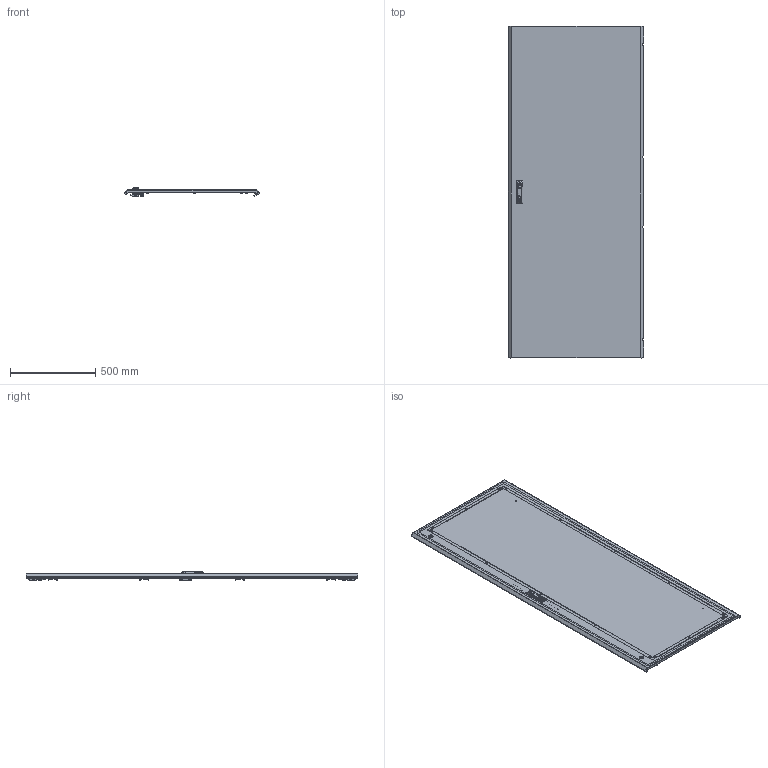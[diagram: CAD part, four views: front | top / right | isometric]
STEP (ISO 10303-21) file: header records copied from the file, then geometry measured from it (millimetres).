
FILE_DESCRIPTION (( 'STEP AP203' ), '1' );
FILE_NAME ('MA1.200.080620.30.00 AleSta-D20M800 Äâåðü ñïëîøíàÿ äëÿ øêàôîâ ALESTA ÂõØ 2000õ800.STEP', '2025-02-19T14:14:40', ( '' ), ( '' ), 'SwSTEP 2.0', 'SolidWorks 2021', '' );
FILE_SCHEMA (( 'CONFIG_CONTROL_DESIGN' ));
Length unit declared in the file: millimetre
Products named in the file (23): Óïëîòíèòåëü ïàíåëè íèæíåé_ ‚=2000; òÿãà_lg001-2.STEP_‚=2000; MA1.200.060620.31.06 赶鎀鍧_100 洵; Âèíò ñàìîíàðåçàþùèé ñ ïîòàéíîé ãîëîâêîé Ì5x16 DIN 7500 M TORX, êëàññ ïðî÷íîñòè 8.8, îöèíêîâàííàÿ ñòàëü_Œ5å16; Áîëò øåñòèãðàííûé Ì5õ12 DIN 933, êëàññ ïðî÷íîñòè 8.8, îöèíêîâàííàÿ ñòàëü; MA1.200.060620.31.04 需沐朦_惃％; äåðæàòåëü_êðóãëîé_òÿãèRG002-RG1010-2-i-RG1010-3-.stp; MA1.200.060620.31.05 Óãëîâîé óïîð äâåðíîé òÿãè; MA1.200.060620.31.01 Ïîëîòíî äâåðè ñïëîøíîé 2000õ600_2000å800; êðåïëåíèå_êðóãëîé_òÿãè_RG1020-1.stp; MA1.200.060620.31.00 Äâåðü ñïëîøíàÿ äëÿ øêàôîâ ALESTA ÂõØ 2000õ600_2000å800; Ãàéêà ñàìîêîíòðÿùàÿñÿ ñ íåéëîíîâîé âñòàâêîé Ì6 DIN 985, êëàññ ïðî÷íîñòè 8, îöèíêîâàííàÿ ñòàëü_Œ6; MS463-2-3(1); Øïèëüêà Ì6õ12_˜¯¨«ìª  Œ6å16; Íàâåñêà íà êîðïóñ ïîä êëåïêó; MA1.200.080620.30.00 AleSta-D20M800 Äâåðü ñïëîøíàÿ äëÿ øêàôîâ ALESTA ÂõØ 2000õ800; 諘蜱齁罻 022 瀁錒瀔隮; Âèíò_ðåçüáîâûäàâëèâàþùèé_Ì5õ12_DIN 7500E_Œ5å12; Îñü ïåòëè 4õ52_‚¨­â A.M4x0,5x40 ƒŽ‘’ 11644-75; Øïèëüêà Ì6õ12_˜¯¨«ìª  Œ6å20; MA1.200.060620.31.03 Ðåéêà íà äâåðü ãîðèçîíòàëüíàÿ Ø = 600_˜=800; MA1.200.060620.31.02 Ðåéêà íà äâåðü âåðòèêàëüíàÿ Â = 2000_‚ =2000; Ãàéêà ñàìîêîíòðÿùàÿñÿ ñ íåéëîíîâîé âñòàâêîé Ì6 DIN 985, êëàññ ïðî÷íîñòè 8, îöèíêîâàííàÿ ñòàëü_Œ5
Assembly tree (84 placements, depth 3):
  MA1.200.080620.30.00 AleSta-D20M800 Äâåðü ñïëîøíàÿ äëÿ øêàôîâ ALESTA ÂõØ 2000õ800
    MA1.200.060620.31.00 Äâåðü ñïëîøíàÿ äëÿ øêàôîâ ALESTA ÂõØ 2000õ600_2000å800
      MA1.200.060620.31.01 Ïîëîòíî äâåðè ñïëîøíîé 2000õ600_2000å800
      Óïëîòíèòåëü ïàíåëè íèæíåé_ ‚=2000
      Øïèëüêà Ì6õ12_˜¯¨«ìª  Œ6å20  x16
      Øïèëüêà Ì6õ12_˜¯¨«ìª  Œ6å16  x4
    MA1.200.060620.31.03 Ðåéêà íà äâåðü ãîðèçîíòàëüíàÿ Ø = 600_˜=800  x2
    諘蜱齁罻 022 瀁錒瀔隮  x4
    MA1.200.060620.31.02 Ðåéêà íà äâåðü âåðòèêàëüíàÿ Â = 2000_‚ =2000  x2
    äåðæàòåëü_êðóãëîé_òÿãèRG002-RG1010-2-i-RG1010-3-.stp  x2
    òÿãà_lg001-2.STEP_‚=2000  x2
    êðåïëåíèå_êðóãëîé_òÿãè_RG1020-1.stp  x2
    MS463-2-3(1)
    Ãàéêà ñàìîêîíòðÿùàÿñÿ ñ íåéëîíîâîé âñòàâêîé Ì6 DIN 985, êëàññ ïðî÷íîñòè 8, îöèíêîâàííàÿ ñòàëü_Œ6  x16
    Ãàéêà ñàìîêîíòðÿùàÿñÿ ñ íåéëîíîâîé âñòàâêîé Ì6 DIN 985, êëàññ ïðî÷íîñòè 8, îöèíêîâàííàÿ ñòàëü_Œ5  x2
    Áîëò øåñòèãðàííûé Ì5õ12 DIN 933, êëàññ ïðî÷íîñòè 8.8, îöèíêîâàííàÿ ñòàëü  x2
    MA1.200.060620.31.05 Óãëîâîé óïîð äâåðíîé òÿãè  x2
    Âèíò_ðåçüáîâûäàâëèâàþùèé_Ì5õ12_DIN 7500E_Œ5å12  x6
    Íàâåñêà íà êîðïóñ ïîä êëåïêó  x4
    Îñü ïåòëè 4õ52_‚¨­â A.M4x0,5x40 ƒŽ‘’ 11644-75  x4
    Âèíò ñàìîíàðåçàþùèé ñ ïîòàéíîé ãîëîâêîé Ì5x16 DIN 7500 M TORX, êëàññ ïðî÷íîñòè 8.8, îöèíêîâàííàÿ ñòàëü_Œ5å16  x8
    MA1.200.060620.31.04 需沐朦_惃％
    MA1.200.060620.31.06 赶鎀鍧_100 洵
Bounding box: 791.81 x 1945 x 52.53 mm (x, y, z)
Volume: 3333187.8 mm3; surface area: 4109004.3 mm2
Topology: 118 solids, 132 shells, 6133 faces, 15240 edges, 9292 vertices
Faces by surface type: cylinder 2471, plane 2445, bspline 661, cone 261, torus 197, sphere 98
Entity records: 140178 total; most frequent: CARTESIAN_POINT 58924, ORIENTED_EDGE 16410, DIRECTION 15449, EDGE_CURVE 8222, AXIS2_PLACEMENT_3D 5531, VERTEX_POINT 5140, LINE 4387, VECTOR 4387
